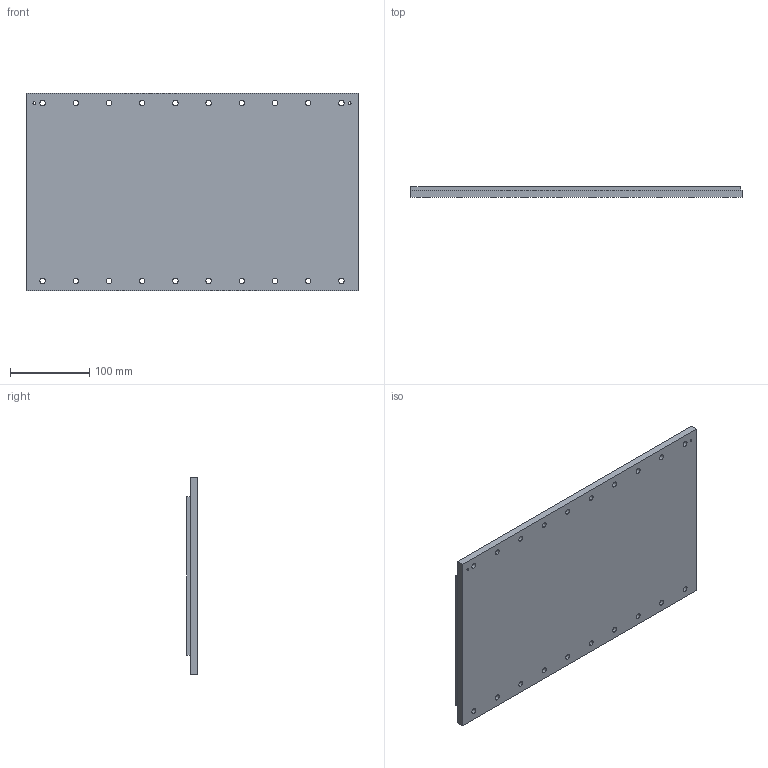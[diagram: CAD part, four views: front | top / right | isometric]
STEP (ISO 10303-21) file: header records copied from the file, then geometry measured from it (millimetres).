
FILE_DESCRIPTION (( 'STEP AP214' ), '1' );
FILE_NAME ('PIXM350-250-TL420-NC.step', '2021-11-01T10:03:26', ( '' ), ( '' ), 'SwSTEP 2.0', 'SolidWorks 2020', '' );
FILE_SCHEMA (( 'AUTOMOTIVE_DESIGN' ));
Length unit declared in the file: millimetre
Products named in the file (1): PIXM350-250-TL420-NC
Bounding box: 420 x 13.5 x 250 mm (x, y, z)
Volume: 1309825.3 mm3; surface area: 397742.5 mm2
Topology: 2 solids, 2 shells, 127 faces, 306 edges, 204 vertices
Faces by surface type: cylinder 84, plane 43
Entity records: 5316 total; most frequent: DIRECTION 730, CARTESIAN_POINT 638, ORIENTED_EDGE 612, EDGE_CURVE 306, AXIS2_PLACEMENT_3D 296, VERTEX_POINT 204, EDGE_LOOP 192, CIRCLE 168
